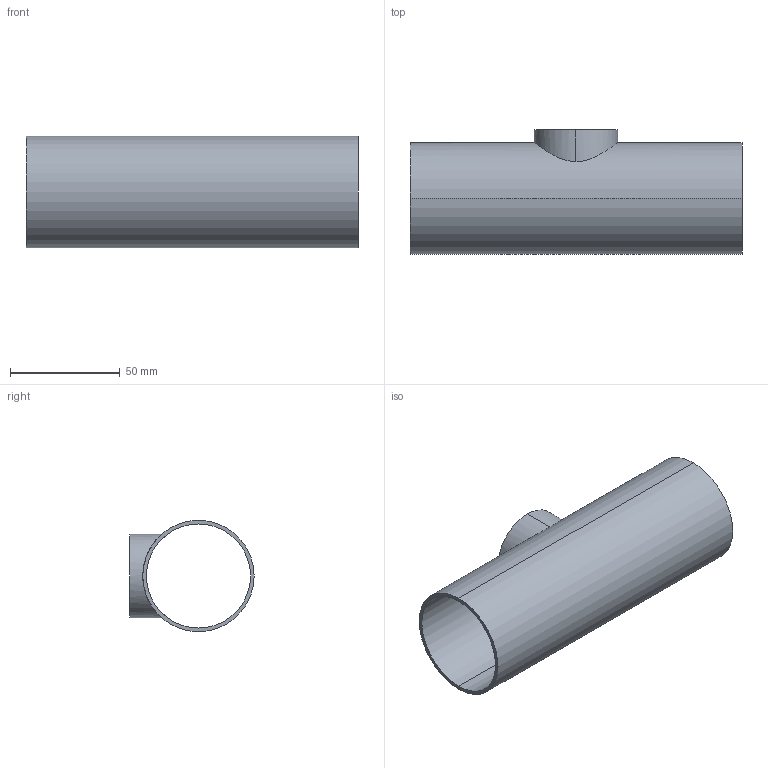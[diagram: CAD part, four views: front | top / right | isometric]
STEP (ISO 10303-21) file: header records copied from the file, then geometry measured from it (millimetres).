
FILE_DESCRIPTION (( 'STEP AP214' ), '1' );
FILE_NAME ('TEG7RS6L2.0x1.5-...STEP', '2016-05-24T08:57:22', ( 'eran' ), ( '' ), 'SwSTEP 2.0', 'SolidWorks 2016', '' );
FILE_SCHEMA (( 'AUTOMOTIVE_DESIGN' ));
Length unit declared in the file: millimetre
Products named in the file (1): TEG7RS6L2.0x1.5-..
Bounding box: 151.4 x 56.7 x 50.8 mm (x, y, z)
Volume: 38691.7 mm3; surface area: 47590.2 mm2
Topology: 1 solids, 1 shells, 11 faces, 24 edges, 16 vertices
Faces by surface type: cylinder 8, plane 3
Entity records: 578 total; most frequent: CARTESIAN_POINT 286, DIRECTION 56, ORIENTED_EDGE 48, AXIS2_PLACEMENT_3D 24, EDGE_CURVE 24, VERTEX_POINT 16, EDGE_LOOP 16, CIRCLE 12
